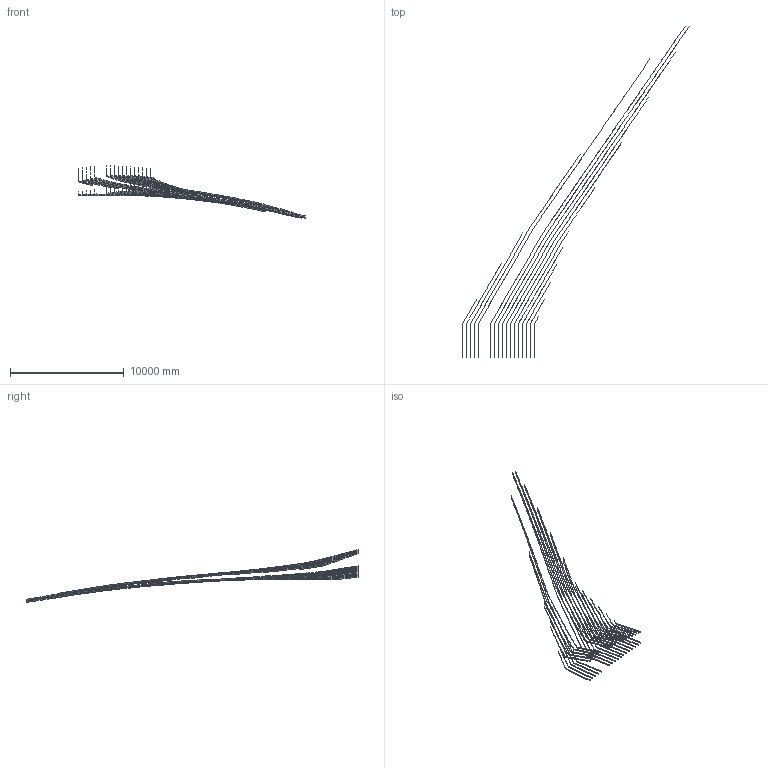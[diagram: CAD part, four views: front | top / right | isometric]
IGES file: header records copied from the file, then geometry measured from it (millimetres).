
Global section: file name: E:\temp\CRM_stringers.igs; native system: NX V8.5; preprocessor: SIEMENS PLM Software NX 8.5; date: 20140115.094730; units: inch
Bounding box: 19979.55 x 29241.83 x 4631.18 mm (x, y, z)
Surface area: 59574115.4 mm2 (no closed solid volume)
Topology: 0 solids, 0 shells, 124 faces, 1619 edges, 1619 vertices
Faces by surface type: bspline 124
